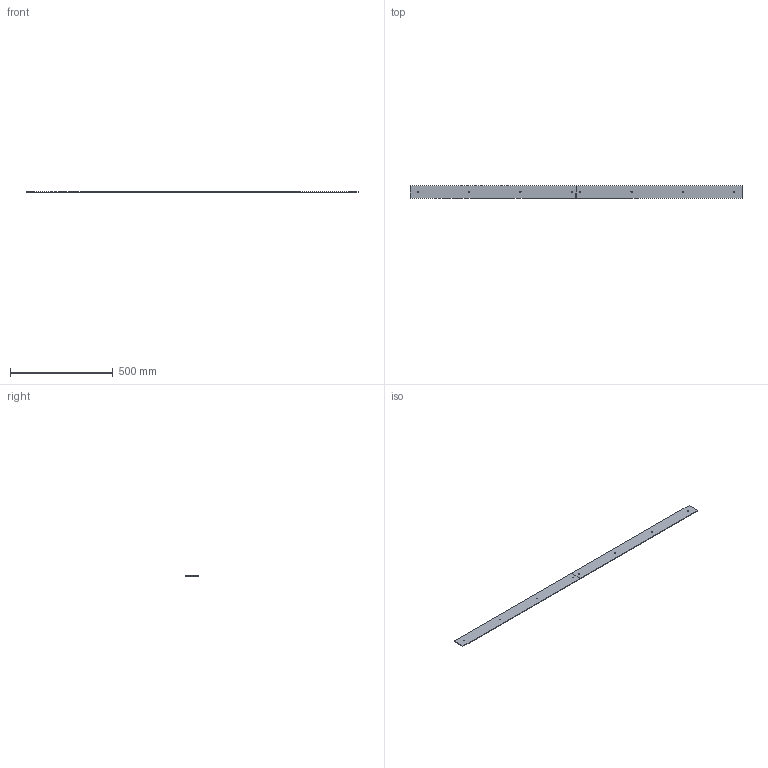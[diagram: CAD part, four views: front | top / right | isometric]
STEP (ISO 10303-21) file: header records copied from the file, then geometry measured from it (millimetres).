
FILE_DESCRIPTION(/* description */ (''),/* implementation_level */ '2;1');
FILE_NAME(/* name */ '4.frame-door#4.7#PCTBA-809-60-3',/* time_stamp */ '2014-12-01T20:13:01+01:00',/* author */ (''),/* organization */ (''),/* preprocessor_version */ 'ST-DEVELOPER v14',/* originating_system */ '',/* authorisation */ '');
FILE_SCHEMA (('AUTOMOTIVE_DESIGN'));
Length unit declared in the file: millimetre
Products named in the file (1): Document
Bounding box: 1614 x 60 x 3 mm (x, y, z)
Volume: 289948.6 mm3; surface area: 204118.8 mm2
Topology: 2 solids, 2 shells, 28 faces, 72 edges, 48 vertices
Faces by surface type: bspline 16, plane 12
Entity records: 1931 total; most frequent: CARTESIAN_POINT 974, ORIENTED_EDGE 144, PCURVE 144, DEFINITIONAL_REPRESENTATION 144, B_SPLINE_CURVE_WITH_KNOTS 136, SURFACE_CURVE 72, EDGE_CURVE 72, VERTEX_POINT 48
